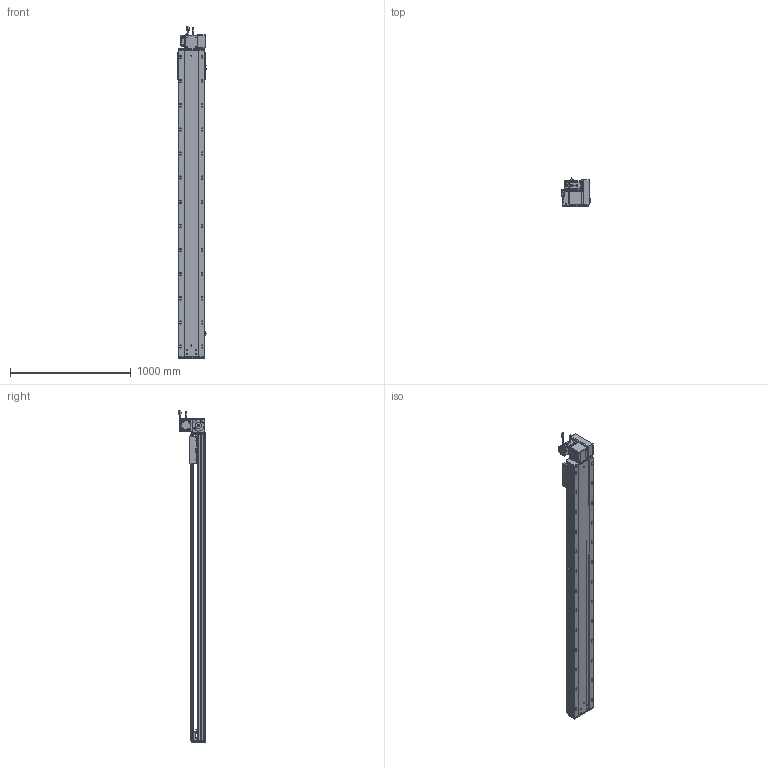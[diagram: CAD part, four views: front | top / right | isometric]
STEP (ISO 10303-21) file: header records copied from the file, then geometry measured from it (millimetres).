
FILE_DESCRIPTION (( 'STEP AP203' ), '1' );
FILE_NAME ('RY220-T-300-UR.SLDASM_2200.step', '2022-07-25T08:44:59', ( '' ), ( '' ), 'SwSTEP 2.0', 'SolidWorks 2016', '' );
FILE_SCHEMA (( 'CONFIG_CONTROL_DESIGN' ));
Length unit declared in the file: millimetre
Products named in the file (14): RY220-T-300-UR.SLDASM_2200; RY220翋肮祭謫裔啣; RY220翋肮祭謫釱; 滅袉蝶18-15; RY220-T-300-奻裔啣_2200; RY220-同步轮副支撑座6304×2; RY220圉猾敕々湍臏賑輸; RY220-俋离672覜茼んえ; 110A-T-肮祭謫釱傷裔; RY220-T-蛌殏萇儂假蚾啣(750W); 怢湛750W_ECMA-CX0807ES; 覜茼ん672; RY220-T菁釱-300_2200; RY220-T-湍謫欶(鍼踢)
Assembly tree (18 placements, depth 2):
  RY220-T-300-UR.SLDASM_2200
    RY220-T菁釱-300_2200
    RY220翋肮祭謫釱
    覜茼ん672  x3
    RY220圉猾敕々湍臏賑輸
    RY220-T-300-奻裔啣_2200
    RY220-俋离672覜茼んえ
    滅袉蝶18-15  x3
    RY220翋肮祭謫裔啣  x2
    110A-T-肮祭謫釱傷裔
    怢湛750W_ECMA-CX0807ES
    RY220-T-湍謫欶(鍼踢)
    RY220-T-蛌殏萇儂假蚾啣(750W)
    RY220-同步轮副支撑座6304×2
Bounding box: 238.7 x 231.74 x 2753.27 mm (x, y, z)
Volume: 20027861.2 mm3; surface area: 6111368.1 mm2
Topology: 19 solids, 19 shells, 2868 faces, 7923 edges, 4982 vertices
Faces by surface type: cylinder 1388, plane 1069, cone 329, bspline 56, sphere 16, torus 10
Entity records: 95475 total; most frequent: CARTESIAN_POINT 27009, ORIENTED_EDGE 14170, DIRECTION 13588, EDGE_CURVE 7085, AXIS2_PLACEMENT_3D 4870, VERTEX_POINT 4606, LINE 3848, VECTOR 3848
